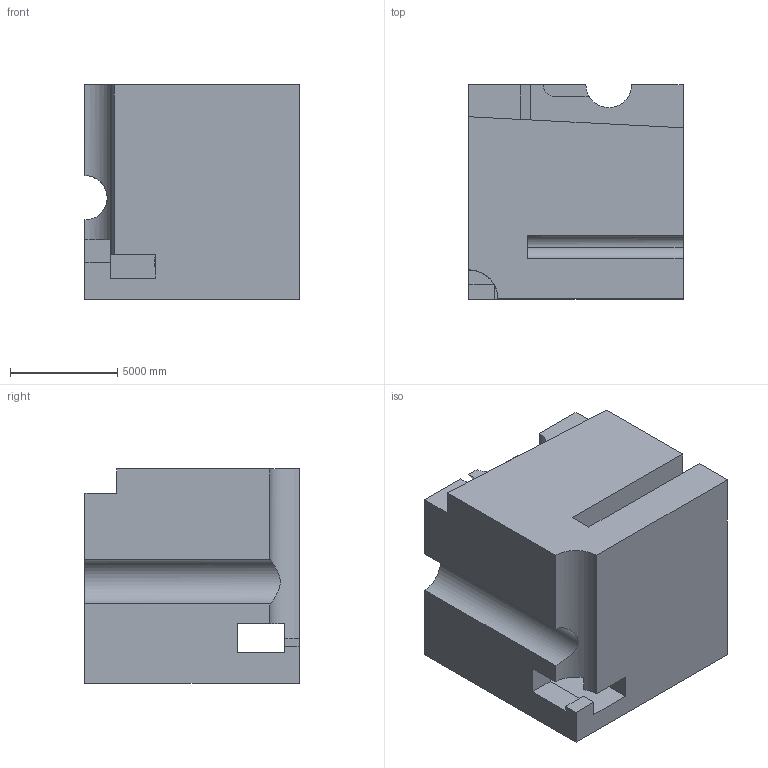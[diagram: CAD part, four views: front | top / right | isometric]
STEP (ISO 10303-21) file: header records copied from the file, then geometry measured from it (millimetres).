
FILE_DESCRIPTION (( 'STEP AP203' ), '1' );
FILE_NAME ('1924.STEP', '2022-08-23T09:32:11', ( 'user' ), ( '' ), 'SwSTEP 2.0', 'SolidWorks 2021', '' );
FILE_SCHEMA (( 'CONFIG_CONTROL_DESIGN' ));
Length unit declared in the file: centimetre
Products named in the file (1): 1924
Bounding box: 10000 x 10000 x 10000 mm (x, y, z)
Volume: 835750639945.4 mm3; surface area: 792282272.8 mm2
Topology: 1 solids, 1 shells, 50 faces, 156 edges, 104 vertices
Faces by surface type: plane 42, cylinder 8
Entity records: 1967 total; most frequent: CARTESIAN_POINT 477, ORIENTED_EDGE 312, DIRECTION 277, EDGE_CURVE 156, VECTOR 129, LINE 129, VERTEX_POINT 104, AXIS2_PLACEMENT_3D 74
